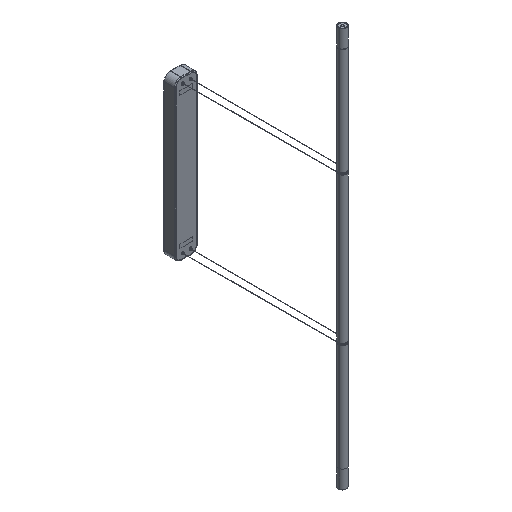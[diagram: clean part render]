
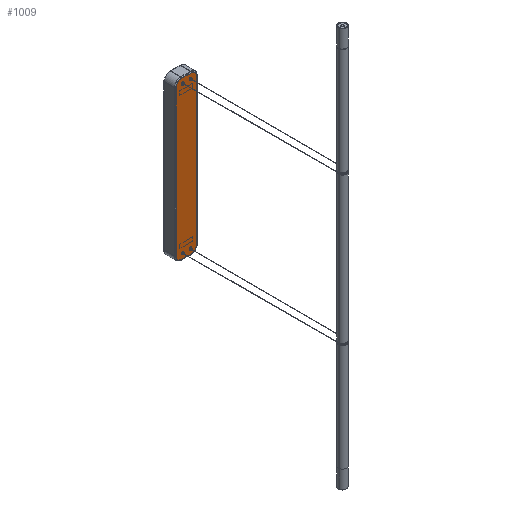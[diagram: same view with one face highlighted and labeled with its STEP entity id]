
A CAD part, isometric view. The second image highlights one B-rep face of the part: STEP entity #1009.
In plain terms, the highlighted planar face has unit normal (0, -1, 0).
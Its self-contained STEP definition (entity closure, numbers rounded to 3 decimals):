
#6 = CARTESIAN_POINT ( 'NONE',  ( 12., 481.05, -227.25 ) ) ;
#22 = VERTEX_POINT ( 'NONE', #282 ) ;
#31 = CARTESIAN_POINT ( 'NONE',  ( 14.45, 481.05, -227.25 ) ) ;
#47 = AXIS2_PLACEMENT_3D ( 'NONE', #1270, #3103, #2824 ) ;
#109 = DIRECTION ( 'NONE',  ( 0., 0., 1. ) ) ;
#116 = VERTEX_POINT ( 'NONE', #2205 ) ;
#209 = DIRECTION ( 'NONE',  ( -1., 0., 0. ) ) ;
#216 = DIRECTION ( 'NONE',  ( 0., -1., 0. ) ) ;
#231 = CARTESIAN_POINT ( 'NONE',  ( 15., 481.05, 224.75 ) ) ;
#271 = ORIENTED_EDGE ( 'NONE', *, *, #848, .T. ) ;
#274 = DIRECTION ( 'NONE',  ( -1., 0., 0. ) ) ;
#282 = CARTESIAN_POINT ( 'NONE',  ( -32., 481.05, 224.75 ) ) ;
#300 = DIRECTION ( 'NONE',  ( -1., 0., 0. ) ) ;
#303 = AXIS2_PLACEMENT_3D ( 'NONE', #6, #2106, #300 ) ;
#305 = ORIENTED_EDGE ( 'NONE', *, *, #2367, .T. ) ;
#375 = VECTOR ( 'NONE', #2380, 1000. ) ;
#384 = CARTESIAN_POINT ( 'NONE',  ( 15., 481.05, -242.25 ) ) ;
#391 = DIRECTION ( 'NONE',  ( 0., 1., 0. ) ) ;
#459 = AXIS2_PLACEMENT_3D ( 'NONE', #742, #3035, #3538 ) ;
#483 = EDGE_LOOP ( 'NONE', ( #2316, #1427 ) ) ;
#487 = EDGE_CURVE ( 'NONE', #22, #1255, #660, .T. ) ;
#492 = CARTESIAN_POINT ( 'NONE',  ( -15., 481.05, 241.75 ) ) ;
#496 = DIRECTION ( 'NONE',  ( -1., 0., 0. ) ) ;
#525 = DIRECTION ( 'NONE',  ( 0., -1., 0. ) ) ;
#526 = DIRECTION ( 'NONE',  ( -1., 0., 0. ) ) ;
#584 = VERTEX_POINT ( 'NONE', #2543 ) ;
#660 = LINE ( 'NONE', #2949, #2807 ) ;
#662 = DIRECTION ( 'NONE',  ( 0., -1., 0. ) ) ;
#676 = VERTEX_POINT ( 'NONE', #1542 ) ;
#742 = CARTESIAN_POINT ( 'NONE',  ( 15., 481.05, -225.25 ) ) ;
#848 = EDGE_CURVE ( 'NONE', #3625, #22, #1633, .T. ) ;
#909 = CARTESIAN_POINT ( 'NONE',  ( 15., 481.05, 241.75 ) ) ;
#960 = FACE_BOUND ( 'NONE', #3427, .T. ) ;
#976 = CIRCLE ( 'NONE', #2201, 2.45 ) ;
#993 = EDGE_CURVE ( 'NONE', #2070, #3349, #3080, .T. ) ;
#999 = DIRECTION ( 'NONE',  ( 0., 1., 0. ) ) ;
#1009 = ADVANCED_FACE ( 'NONE', ( #2832, #1398, #1483, #960, #1821 ), #1275, .F. ) ;
#1034 = CIRCLE ( 'NONE', #2326, 17. ) ;
#1061 = CIRCLE ( 'NONE', #47, 2.45 ) ;
#1105 = DIRECTION ( 'NONE',  ( -1., 0., 0. ) ) ;
#1110 = DIRECTION ( 'NONE',  ( 0., 0., -1. ) ) ;
#1122 = AXIS2_PLACEMENT_3D ( 'NONE', #2321, #216, #3519 ) ;
#1152 = ORIENTED_EDGE ( 'NONE', *, *, #2641, .T. ) ;
#1159 = VERTEX_POINT ( 'NONE', #2061 ) ;
#1209 = CIRCLE ( 'NONE', #1411, 17. ) ;
#1241 = ORIENTED_EDGE ( 'NONE', *, *, #2231, .F. ) ;
#1249 = CARTESIAN_POINT ( 'NONE',  ( -32., 481.05, -225.25 ) ) ;
#1255 = VERTEX_POINT ( 'NONE', #1249 ) ;
#1270 = CARTESIAN_POINT ( 'NONE',  ( -12., 481.05, 226.75 ) ) ;
#1275 = PLANE ( 'NONE',  #459 ) ;
#1296 = ORIENTED_EDGE ( 'NONE', *, *, #1477, .T. ) ;
#1393 = EDGE_CURVE ( 'NONE', #116, #3528, #3713, .T. ) ;
#1398 = FACE_BOUND ( 'NONE', #1720, .T. ) ;
#1410 = CARTESIAN_POINT ( 'NONE',  ( 32., 481.05, -225.25 ) ) ;
#1411 = AXIS2_PLACEMENT_3D ( 'NONE', #231, #2337, #526 ) ;
#1420 = ORIENTED_EDGE ( 'NONE', *, *, #1768, .T. ) ;
#1427 = ORIENTED_EDGE ( 'NONE', *, *, #1500, .F. ) ;
#1451 = CARTESIAN_POINT ( 'NONE',  ( -12., 481.05, -227.25 ) ) ;
#1464 = AXIS2_PLACEMENT_3D ( 'NONE', #1578, #391, #3463 ) ;
#1477 = EDGE_CURVE ( 'NONE', #584, #2899, #3583, .T. ) ;
#1483 = FACE_BOUND ( 'NONE', #3034, .T. ) ;
#1500 = EDGE_CURVE ( 'NONE', #3777, #2075, #1061, .T. ) ;
#1542 = CARTESIAN_POINT ( 'NONE',  ( 9.55, 481.05, -227.25 ) ) ;
#1559 = CARTESIAN_POINT ( 'NONE',  ( 12., 481.05, -227.25 ) ) ;
#1578 = CARTESIAN_POINT ( 'NONE',  ( -12., 481.05, -227.25 ) ) ;
#1585 = ORIENTED_EDGE ( 'NONE', *, *, #3601, .T. ) ;
#1601 = AXIS2_PLACEMENT_3D ( 'NONE', #3736, #2674, #1105 ) ;
#1633 = CIRCLE ( 'NONE', #1122, 17. ) ;
#1679 = DIRECTION ( 'NONE',  ( -1., 0., 0. ) ) ;
#1720 = EDGE_LOOP ( 'NONE', ( #3464, #3365 ) ) ;
#1758 = AXIS2_PLACEMENT_3D ( 'NONE', #2731, #2058, #3548 ) ;
#1768 = EDGE_CURVE ( 'NONE', #3528, #584, #2180, .T. ) ;
#1778 = DIRECTION ( 'NONE',  ( -1., 0., 0. ) ) ;
#1797 = CIRCLE ( 'NONE', #1601, 2.45 ) ;
#1819 = EDGE_CURVE ( 'NONE', #676, #3667, #2810, .T. ) ;
#1821 = FACE_OUTER_BOUND ( 'NONE', #3451, .T. ) ;
#1962 = ORIENTED_EDGE ( 'NONE', *, *, #3104, .T. ) ;
#2034 = ORIENTED_EDGE ( 'NONE', *, *, #993, .T. ) ;
#2058 = DIRECTION ( 'NONE',  ( 0., -1., 0. ) ) ;
#2061 = CARTESIAN_POINT ( 'NONE',  ( 14.45, 481.05, 226.75 ) ) ;
#2070 = VERTEX_POINT ( 'NONE', #3198 ) ;
#2074 = DIRECTION ( 'NONE',  ( 0., 1., 0. ) ) ;
#2075 = VERTEX_POINT ( 'NONE', #3520 ) ;
#2106 = DIRECTION ( 'NONE',  ( 0., -1., 0. ) ) ;
#2180 = CIRCLE ( 'NONE', #1758, 17. ) ;
#2185 = ORIENTED_EDGE ( 'NONE', *, *, #1393, .T. ) ;
#2201 = AXIS2_PLACEMENT_3D ( 'NONE', #3688, #999, #496 ) ;
#2205 = CARTESIAN_POINT ( 'NONE',  ( -15., 481.05, -242.25 ) ) ;
#2222 = VERTEX_POINT ( 'NONE', #2740 ) ;
#2231 = EDGE_CURVE ( 'NONE', #3667, #676, #2308, .T. ) ;
#2251 = CARTESIAN_POINT ( 'NONE',  ( 15., 481.05, 241.75 ) ) ;
#2308 = CIRCLE ( 'NONE', #303, 2.45 ) ;
#2316 = ORIENTED_EDGE ( 'NONE', *, *, #3854, .F. ) ;
#2321 = CARTESIAN_POINT ( 'NONE',  ( -15., 481.05, 224.75 ) ) ;
#2326 = AXIS2_PLACEMENT_3D ( 'NONE', #2488, #662, #2815 ) ;
#2337 = DIRECTION ( 'NONE',  ( 0., -1., 0. ) ) ;
#2367 = EDGE_CURVE ( 'NONE', #1255, #116, #1034, .T. ) ;
#2380 = DIRECTION ( 'NONE',  ( 1., 0., 0. ) ) ;
#2389 = CARTESIAN_POINT ( 'NONE',  ( -9.55, 481.05, 226.75 ) ) ;
#2436 = VERTEX_POINT ( 'NONE', #2251 ) ;
#2458 = CIRCLE ( 'NONE', #2875, 2.45 ) ;
#2488 = CARTESIAN_POINT ( 'NONE',  ( -15., 481.05, -225.25 ) ) ;
#2528 = CARTESIAN_POINT ( 'NONE',  ( 32., 481.05, 224.75 ) ) ;
#2543 = CARTESIAN_POINT ( 'NONE',  ( 32., 481.05, -225.25 ) ) ;
#2559 = CARTESIAN_POINT ( 'NONE',  ( -14.45, 481.05, -227.25 ) ) ;
#2641 = EDGE_CURVE ( 'NONE', #3349, #2070, #2677, .T. ) ;
#2666 = VECTOR ( 'NONE', #1679, 1000. ) ;
#2674 = DIRECTION ( 'NONE',  ( 0., -1., 0. ) ) ;
#2677 = CIRCLE ( 'NONE', #3482, 2.45 ) ;
#2731 = CARTESIAN_POINT ( 'NONE',  ( 15., 481.05, -225.25 ) ) ;
#2740 = CARTESIAN_POINT ( 'NONE',  ( 9.55, 481.05, 226.75 ) ) ;
#2790 = AXIS2_PLACEMENT_3D ( 'NONE', #1559, #525, #209 ) ;
#2807 = VECTOR ( 'NONE', #1110, 1000. ) ;
#2810 = CIRCLE ( 'NONE', #2790, 2.45 ) ;
#2815 = DIRECTION ( 'NONE',  ( -1., 0., 0. ) ) ;
#2824 = DIRECTION ( 'NONE',  ( -1., 0., 0. ) ) ;
#2832 = FACE_BOUND ( 'NONE', #483, .T. ) ;
#2875 = AXIS2_PLACEMENT_3D ( 'NONE', #3916, #2074, #274 ) ;
#2891 = VECTOR ( 'NONE', #109, 1000. ) ;
#2899 = VERTEX_POINT ( 'NONE', #2528 ) ;
#2949 = CARTESIAN_POINT ( 'NONE',  ( -32., 481.05, -225.25 ) ) ;
#3034 = EDGE_LOOP ( 'NONE', ( #1152, #2034 ) ) ;
#3035 = DIRECTION ( 'NONE',  ( 0., 1., 0. ) ) ;
#3080 = CIRCLE ( 'NONE', #1464, 2.45 ) ;
#3103 = DIRECTION ( 'NONE',  ( 0., -1., 0. ) ) ;
#3104 = EDGE_CURVE ( 'NONE', #2899, #2436, #1209, .T. ) ;
#3131 = ORIENTED_EDGE ( 'NONE', *, *, #1819, .F. ) ;
#3153 = EDGE_CURVE ( 'NONE', #1159, #2222, #2458, .T. ) ;
#3198 = CARTESIAN_POINT ( 'NONE',  ( -9.55, 481.05, -227.25 ) ) ;
#3280 = CARTESIAN_POINT ( 'NONE',  ( 15., 481.05, -242.25 ) ) ;
#3349 = VERTEX_POINT ( 'NONE', #2559 ) ;
#3365 = ORIENTED_EDGE ( 'NONE', *, *, #3153, .T. ) ;
#3427 = EDGE_LOOP ( 'NONE', ( #3131, #1241 ) ) ;
#3451 = EDGE_LOOP ( 'NONE', ( #305, #2185, #1420, #1296, #1962, #1585, #271, #3461 ) ) ;
#3461 = ORIENTED_EDGE ( 'NONE', *, *, #487, .T. ) ;
#3463 = DIRECTION ( 'NONE',  ( -1., 0., 0. ) ) ;
#3464 = ORIENTED_EDGE ( 'NONE', *, *, #3846, .T. ) ;
#3482 = AXIS2_PLACEMENT_3D ( 'NONE', #1451, #3595, #1778 ) ;
#3519 = DIRECTION ( 'NONE',  ( -1., 0., 0. ) ) ;
#3520 = CARTESIAN_POINT ( 'NONE',  ( -14.45, 481.05, 226.75 ) ) ;
#3528 = VERTEX_POINT ( 'NONE', #3280 ) ;
#3538 = DIRECTION ( 'NONE',  ( -1., 0., 0. ) ) ;
#3548 = DIRECTION ( 'NONE',  ( -1., 0., 0. ) ) ;
#3583 = LINE ( 'NONE', #1410, #2891 ) ;
#3595 = DIRECTION ( 'NONE',  ( 0., 1., 0. ) ) ;
#3601 = EDGE_CURVE ( 'NONE', #2436, #3625, #3659, .T. ) ;
#3625 = VERTEX_POINT ( 'NONE', #492 ) ;
#3659 = LINE ( 'NONE', #909, #2666 ) ;
#3667 = VERTEX_POINT ( 'NONE', #31 ) ;
#3688 = CARTESIAN_POINT ( 'NONE',  ( 12., 481.05, 226.75 ) ) ;
#3713 = LINE ( 'NONE', #384, #375 ) ;
#3736 = CARTESIAN_POINT ( 'NONE',  ( -12., 481.05, 226.75 ) ) ;
#3777 = VERTEX_POINT ( 'NONE', #2389 ) ;
#3846 = EDGE_CURVE ( 'NONE', #2222, #1159, #976, .T. ) ;
#3854 = EDGE_CURVE ( 'NONE', #2075, #3777, #1797, .T. ) ;
#3916 = CARTESIAN_POINT ( 'NONE',  ( 12., 481.05, 226.75 ) ) ;
